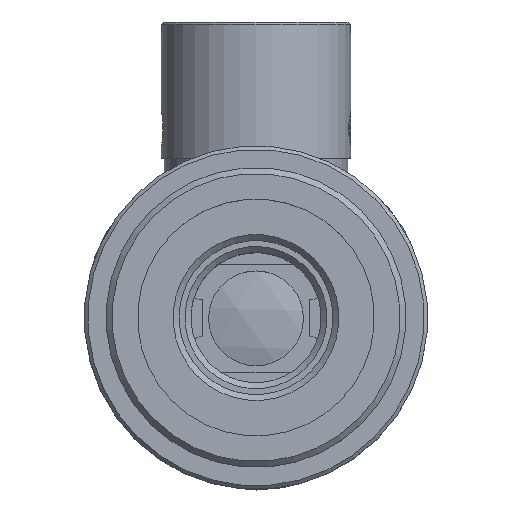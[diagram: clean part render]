
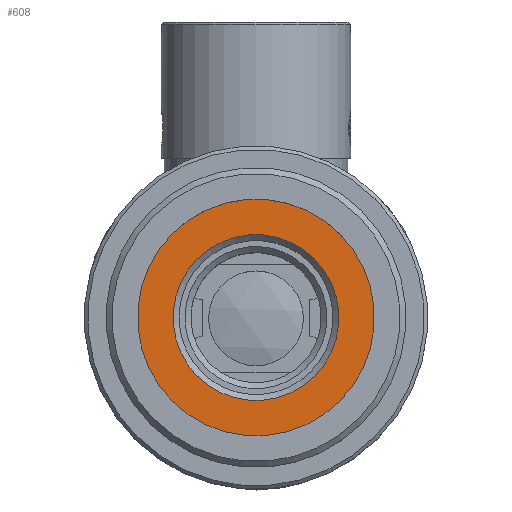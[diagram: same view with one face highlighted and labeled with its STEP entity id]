
A CAD part, top view. The second image highlights one B-rep face of the part: STEP entity #608.
In plain terms, the highlighted planar face has unit normal (0, 0, 1).
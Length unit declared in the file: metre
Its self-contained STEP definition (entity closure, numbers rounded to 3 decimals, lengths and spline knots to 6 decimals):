
#608=ADVANCED_FACE('NONE',(#1524,#1525),#1526,.F.);
#1524=FACE_BOUND('',#2850,.T.);
#1525=FACE_OUTER_BOUND('',#2851,.T.);
#1526=PLANE('',#2852);
#2850=EDGE_LOOP('',(#4514));
#2851=EDGE_LOOP('',(#4515));
#2852=AXIS2_PLACEMENT_3D('',#4516,#4517,#4518);
#4514=ORIENTED_EDGE('',*,*,#6815,.T.);
#4515=ORIENTED_EDGE('',*,*,#6816,.F.);
#4516=CARTESIAN_POINT('',(-0.006365,0.009099,0.0559));
#4517=DIRECTION('',(0.,0.0,-1.0));
#4518=DIRECTION('',(-1.0,0.0,0.));
#6815=EDGE_CURVE('NONE',#8042,#8042,#8043,.T.);
#6816=EDGE_CURVE('NONE',#8044,#8044,#8045,.T.);
#8042=VERTEX_POINT('',#10114);
#8043=CIRCLE('',#10115,0.007);
#8044=VERTEX_POINT('',#10116);
#8045=CIRCLE('',#10117,0.01);
#10114=CARTESIAN_POINT('',(-0.012475,-0.001469,0.0559));
#10115=AXIS2_PLACEMENT_3D('',#11995,#11996,#11997);
#10116=CARTESIAN_POINT('',(-0.015464,-0.001728,0.0559));
#10117=AXIS2_PLACEMENT_3D('',#11998,#11999,#12000);
#11995=CARTESIAN_POINT('',(-0.005501,-0.000864,0.0559));
#11996=DIRECTION('',(0.,0.,-1.0));
#11997=DIRECTION('',(-0.996,-0.086,0.));
#11998=CARTESIAN_POINT('',(-0.005501,-0.000864,0.0559));
#11999=DIRECTION('',(0.,0.0,-1.0));
#12000=DIRECTION('',(-0.996,-0.086,0.));
